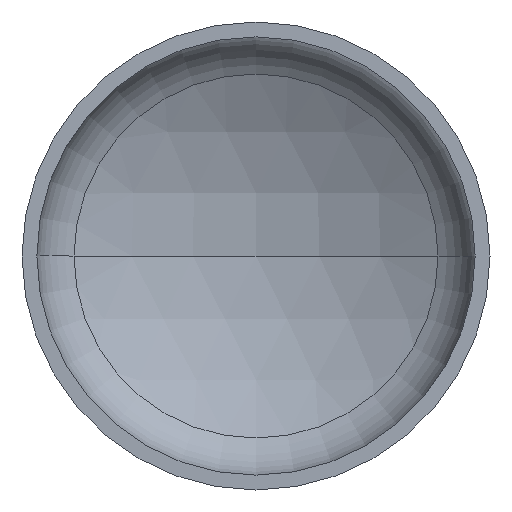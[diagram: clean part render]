
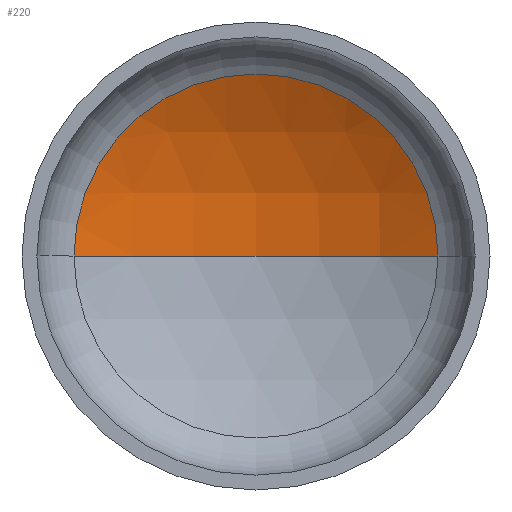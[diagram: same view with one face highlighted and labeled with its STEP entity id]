
A CAD part, front view. The second image highlights one B-rep face of the part: STEP entity #220.
In plain terms, the highlighted spherical face has radius 2720 mm.
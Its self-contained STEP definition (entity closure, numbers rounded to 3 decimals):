
#26 = ORIENTED_EDGE ( 'NONE', *, *, #365, .T. ) ;
#28 = VERTEX_POINT ( 'NONE', #288 ) ;
#29 = VERTEX_POINT ( 'NONE', #343 ) ;
#33 = ORIENTED_EDGE ( 'NONE', *, *, #401, .F. ) ;
#41 = AXIS2_PLACEMENT_3D ( 'NONE', #380, #290, #219 ) ;
#50 = AXIS2_PLACEMENT_3D ( 'NONE', #156, #217, #272 ) ;
#108 = CIRCLE ( 'NONE', #41, 1322.205 ) ;
#112 = EDGE_LOOP ( 'NONE', ( #33, #26, #135 ) ) ;
#115 = AXIS2_PLACEMENT_3D ( 'NONE', #155, #382, #198 ) ;
#123 = CARTESIAN_POINT ( 'NONE',  ( 0., -1843.212, 0. ) ) ;
#135 = ORIENTED_EDGE ( 'NONE', *, *, #364, .T. ) ;
#155 = CARTESIAN_POINT ( 'NONE',  ( 0., -1843.212, 0. ) ) ;
#156 = CARTESIAN_POINT ( 'NONE',  ( 0., -1843.212, 0. ) ) ;
#160 = CARTESIAN_POINT ( 'NONE',  ( 0., 876.788, 0. ) ) ;
#163 = DIRECTION ( 'NONE',  ( 1., 0., 0. ) ) ;
#164 = SPHERICAL_SURFACE ( 'NONE', #115, 2720. ) ;
#198 = DIRECTION ( 'NONE',  ( -1., 0., 0. ) ) ;
#199 = AXIS2_PLACEMENT_3D ( 'NONE', #123, #317, #163 ) ;
#217 = DIRECTION ( 'NONE',  ( 0., 0., -1. ) ) ;
#219 = DIRECTION ( 'NONE',  ( 1., 0., 0. ) ) ;
#220 = ADVANCED_FACE ( 'NONE', ( #361 ), #164, .F. ) ;
#272 = DIRECTION ( 'NONE',  ( -1., 0., 0. ) ) ;
#288 = CARTESIAN_POINT ( 'NONE',  ( -1322.205, 533.798, 0. ) ) ;
#290 = DIRECTION ( 'NONE',  ( 0., -1., 0. ) ) ;
#317 = DIRECTION ( 'NONE',  ( 0., 0., 1. ) ) ;
#319 = CIRCLE ( 'NONE', #199, 2720. ) ;
#330 = VERTEX_POINT ( 'NONE', #160 ) ;
#334 = CIRCLE ( 'NONE', #50, 2720. ) ;
#343 = CARTESIAN_POINT ( 'NONE',  ( 1322.205, 533.798, 0. ) ) ;
#361 = FACE_OUTER_BOUND ( 'NONE', #112, .T. ) ;
#364 = EDGE_CURVE ( 'NONE', #29, #28, #108, .T. ) ;
#365 = EDGE_CURVE ( 'NONE', #330, #29, #334, .T. ) ;
#380 = CARTESIAN_POINT ( 'NONE',  ( 0., 533.798, 0. ) ) ;
#382 = DIRECTION ( 'NONE',  ( 0., 0., -1. ) ) ;
#401 = EDGE_CURVE ( 'NONE', #330, #28, #319, .T. ) ;
